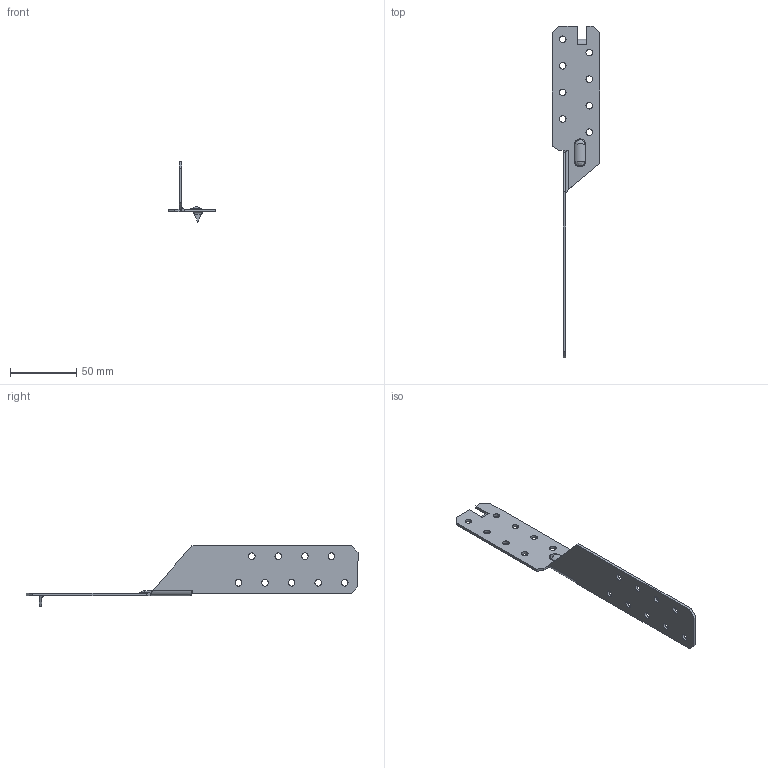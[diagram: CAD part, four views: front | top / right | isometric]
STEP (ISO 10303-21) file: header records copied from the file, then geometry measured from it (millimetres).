
FILE_DESCRIPTION (( 'STEP AP203' ), '1' );
FILE_NAME ('100503RLD.STEP', '2020-02-13T15:19:48', ( '' ), ( '' ), 'SwSTEP 2.0', 'SolidWorks 2013', '' );
FILE_SCHEMA (( 'CONFIG_CONTROL_DESIGN' ));
Length unit declared in the file: millimetre
Products named in the file (1): 100503RLD
Bounding box: 36 x 250 x 45.74 mm (x, y, z)
Volume: 17088.6 mm3; surface area: 18948 mm2
Topology: 1 solids, 1 shells, 88 faces, 234 edges, 150 vertices
Faces by surface type: cylinder 44, plane 34, bspline 10
Entity records: 3530 total; most frequent: CARTESIAN_POINT 1202, ORIENTED_EDGE 468, DIRECTION 454, EDGE_CURVE 234, AXIS2_PLACEMENT_3D 161, VERTEX_POINT 150, VECTOR 132, LINE 132
